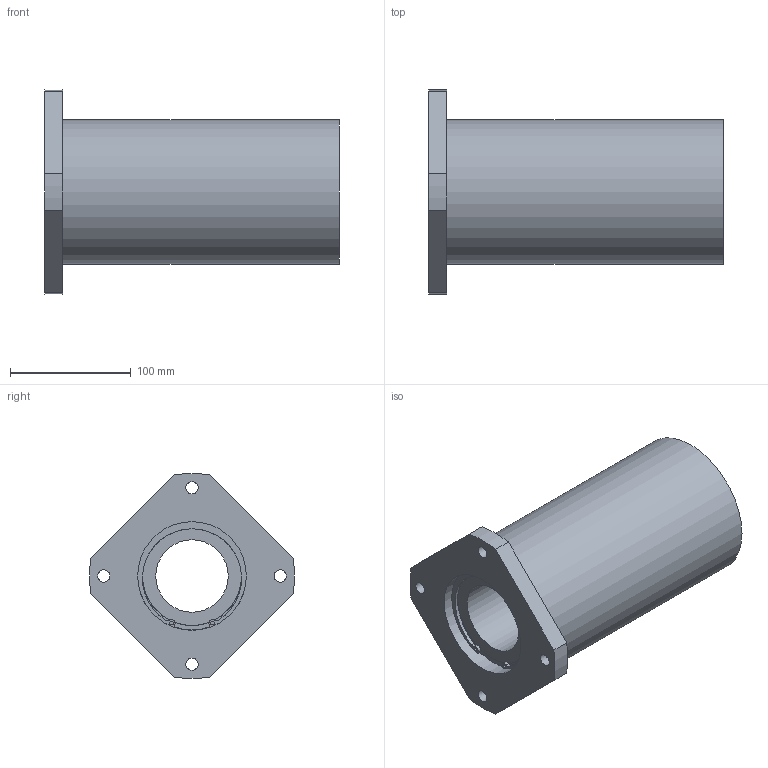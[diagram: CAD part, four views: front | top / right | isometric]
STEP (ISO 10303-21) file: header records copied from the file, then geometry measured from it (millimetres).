
FILE_DESCRIPTION((''),'2;1');
FILE_NAME('D:\製品 (図面)\カタログ用3D\リニアベアリング関連(改)\STEP形式\LFWK\LFWK60.stp','2010-01-22T16:01:04',('Tsuchiya'),(''),'Autodesk Inventor 10','Autodesk Inventor 10','');
FILE_SCHEMA(('AUTOMOTIVE_DESIGN { 1 0 10303 214 1 1 1 1 }'));
Length unit declared in the file: millimetre
Products named in the file (1): LFWK60
Bounding box: 244 x 169.69 x 169.69 mm (x, y, z)
Volume: 2090909.5 mm3; surface area: 193081.3 mm2
Topology: 1 solids, 6 shells, 86 faces, 196 edges, 125 vertices
Faces by surface type: bspline 31, cylinder 28, plane 25, torus 2
Full cylindrical faces by diameter (mm): 3 x2, 10.106 x4, 60 x1, 82 x2, 86.5 x2, 90 x7, 120 x1
Entity records: 2474 total; most frequent: CARTESIAN_POINT 682, DIRECTION 374, ORIENTED_EDGE 306, AXIS2_PLACEMENT_3D 165, EDGE_CURVE 153, EDGE_LOOP 144, VERTEX_POINT 113, CIRCLE 109
